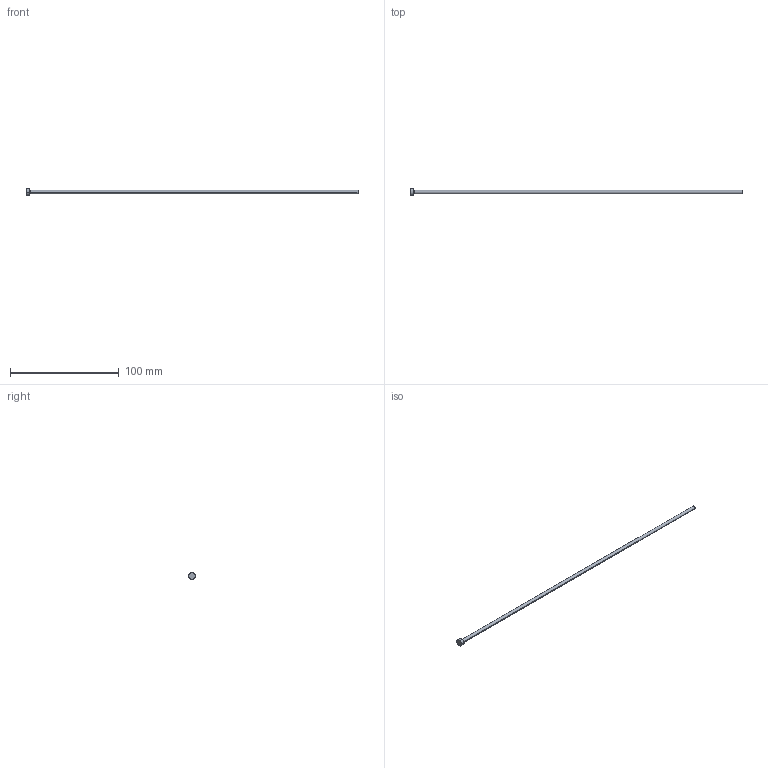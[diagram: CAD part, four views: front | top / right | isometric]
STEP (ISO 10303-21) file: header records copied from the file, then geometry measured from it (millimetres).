
FILE_DESCRIPTION (( 'STEP AP214' ), '1' );
FILE_NAME ('P9-12.STEP', '2020-03-11T17:31:29', ( '' ), ( '' ), 'SwSTEP 2.0', 'SolidWorks 2018', '' );
FILE_SCHEMA (( 'AUTOMOTIVE_DESIGN' ));
Length unit declared in the file: inch
Products named in the file (1): P9-12
Bounding box: 304.8 x 6.35 x 6.35 mm (x, y, z)
Volume: 2478.3 mm3; surface area: 3122.6 mm2
Topology: 1 solids, 1 shells, 13 faces, 24 edges, 14 vertices
Faces by surface type: cone 4, cylinder 4, plane 3, torus 2
Entity records: 366 total; most frequent: DIRECTION 68, CARTESIAN_POINT 52, ORIENTED_EDGE 48, AXIS2_PLACEMENT_3D 30, EDGE_CURVE 24, CIRCLE 16, VERTEX_POINT 14, EDGE_LOOP 14
